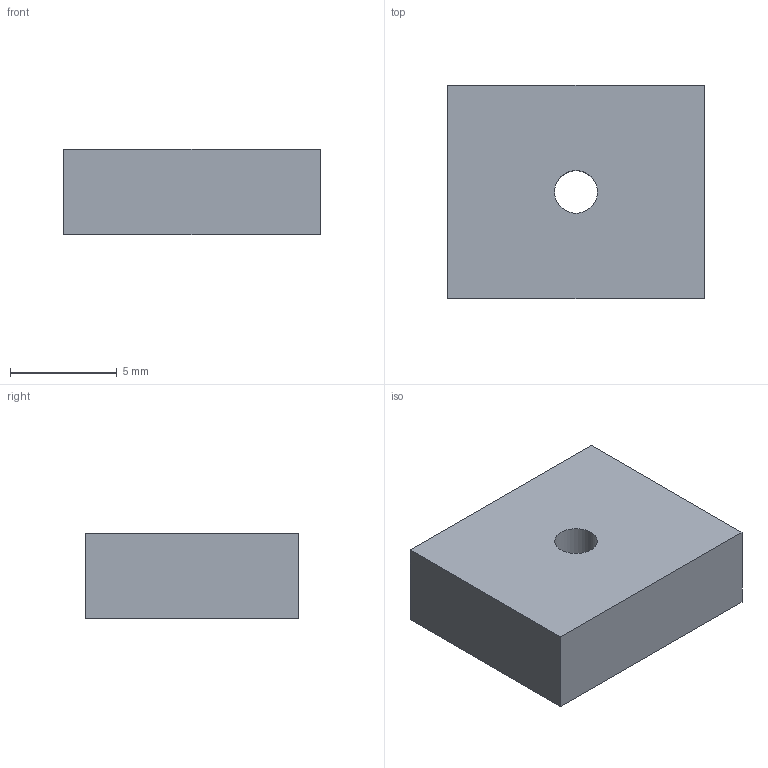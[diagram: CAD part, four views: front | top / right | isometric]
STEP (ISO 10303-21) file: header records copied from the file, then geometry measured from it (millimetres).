
FILE_DESCRIPTION(('Open CASCADE Model'),'2;1');
FILE_NAME('Open CASCADE Shape Model','2000-01-01T00:00:00',('Author'),( 'Open CASCADE'),'Open CASCADE STEP processor 7.9','Open CASCADE 7.9' ,'Unknown');
FILE_SCHEMA(('AUTOMOTIVE_DESIGN { 1 0 10303 214 1 1 1 1 }'));
Length unit declared in the file: millimetre
Products named in the file (1): Open CASCADE STEP translator 7.9 1
Bounding box: 12 x 10 x 4 mm (x, y, z)
Volume: 467.4 mm3; surface area: 434.8 mm2
Topology: 1 solids, 1 shells, 7 faces, 15 edges, 10 vertices
Faces by surface type: plane 6, cylinder 1
Full cylindrical faces by diameter (mm): 2 x1
Entity records: 400 total; most frequent: CARTESIAN_POINT 63, DIRECTION 63, LINE 41, VECTOR 41, ORIENTED_EDGE 30, PCURVE 30, DEFINITIONAL_REPRESENTATION 30, EDGE_CURVE 15
